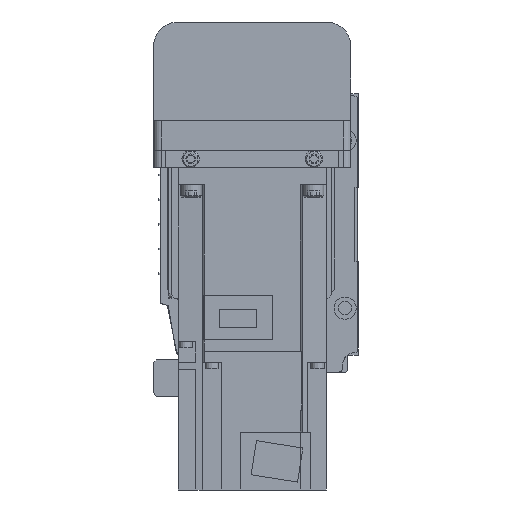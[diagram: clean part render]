
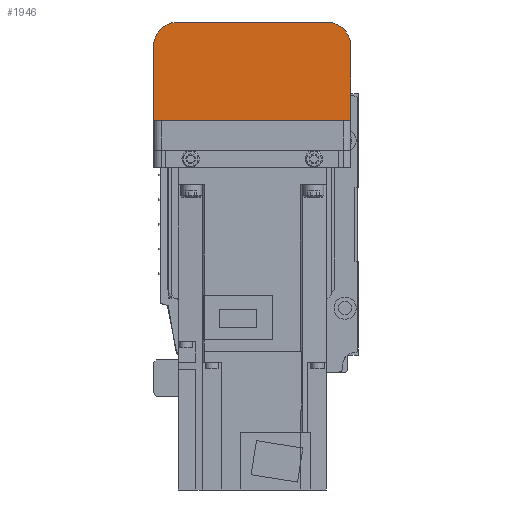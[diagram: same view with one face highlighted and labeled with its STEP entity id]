
A CAD part, left-side view. The second image highlights one B-rep face of the part: STEP entity #1946.
In plain terms, the highlighted planar face has unit normal (-1, 0, 0).
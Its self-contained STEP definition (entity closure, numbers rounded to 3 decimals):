
#1946 = ADVANCED_FACE( '', ( #4192 ), #4193, .F. );
#4192 = FACE_OUTER_BOUND( '', #6728, .T. );
#4193 = PLANE( '', #6729 );
#6728 = EDGE_LOOP( '', ( #12030, #12031, #12032, #12033, #12034, #12035 ) );
#6729 = AXIS2_PLACEMENT_3D( '', #12036, #12037, #12038 );
#12030 = ORIENTED_EDGE( '', *, *, #14512, .F. );
#12031 = ORIENTED_EDGE( '', *, *, #14495, .F. );
#12032 = ORIENTED_EDGE( '', *, *, #16302, .F. );
#12033 = ORIENTED_EDGE( '', *, *, #15856, .F. );
#12034 = ORIENTED_EDGE( '', *, *, #14692, .F. );
#12035 = ORIENTED_EDGE( '', *, *, #16303, .F. );
#12036 = CARTESIAN_POINT( '', ( -192., 37., 7. ) );
#12037 = DIRECTION( '', ( 1., 0., 0. ) );
#12038 = DIRECTION( '', ( 0., 0., -1. ) );
#14495 = EDGE_CURVE( '', #17283, #17285, #17286, .T. );
#14512 = EDGE_CURVE( '', #17285, #17313, #17314, .T. );
#14692 = EDGE_CURVE( '', #17622, #17624, #17625, .T. );
#15856 = EDGE_CURVE( '', #17624, #19437, #19438, .T. );
#16302 = EDGE_CURVE( '', #19437, #17283, #20026, .T. );
#16303 = EDGE_CURVE( '', #17313, #17622, #20027, .T. );
#17283 = VERTEX_POINT( '', #21220 );
#17285 = VERTEX_POINT( '', #21223 );
#17286 = LINE( '', #21224, #21225 );
#17313 = VERTEX_POINT( '', #21262 );
#17314 = LINE( '', #21263, #21264 );
#17622 = VERTEX_POINT( '', #21671 );
#17624 = VERTEX_POINT( '', #21674 );
#17625 = CIRCLE( '', #21675, 10. );
#19437 = VERTEX_POINT( '', #24106 );
#19438 = LINE( '', #24107, #24108 );
#20026 = CIRCLE( '', #24900, 10. );
#20027 = LINE( '', #24901, #24902 );
#21220 = CARTESIAN_POINT( '', ( -192., 40., -42. ) );
#21223 = CARTESIAN_POINT( '', ( -192., 40., -12.1 ) );
#21224 = CARTESIAN_POINT( '', ( -192., 40., -42. ) );
#21225 = VECTOR( '', #25929, 1000. );
#21262 = CARTESIAN_POINT( '', ( -192., -40., -12.1 ) );
#21263 = CARTESIAN_POINT( '', ( -192., 50., -12.1 ) );
#21264 = VECTOR( '', #25946, 1000. );
#21671 = CARTESIAN_POINT( '', ( -192., -40., -42. ) );
#21674 = CARTESIAN_POINT( '', ( -192., -30., -52. ) );
#21675 = AXIS2_PLACEMENT_3D( '', #26185, #26186, #26187 );
#24106 = CARTESIAN_POINT( '', ( -192., 30., -52. ) );
#24107 = CARTESIAN_POINT( '', ( -192., -30., -52. ) );
#24108 = VECTOR( '', #27626, 1000. );
#24900 = AXIS2_PLACEMENT_3D( '', #28143, #28144, #28145 );
#24901 = CARTESIAN_POINT( '', ( -192., -40., -12.1 ) );
#24902 = VECTOR( '', #28146, 1000. );
#25929 = DIRECTION( '', ( 0., 0., 1. ) );
#25946 = DIRECTION( '', ( 0., -1., 0. ) );
#26185 = CARTESIAN_POINT( '', ( -192., -30., -42. ) );
#26186 = DIRECTION( '', ( 1., 0., 0. ) );
#26187 = DIRECTION( '', ( 0., 0., -1. ) );
#27626 = DIRECTION( '', ( 0., 1., 0. ) );
#28143 = CARTESIAN_POINT( '', ( -192., 30., -42. ) );
#28144 = DIRECTION( '', ( 1., 0., 0. ) );
#28145 = DIRECTION( '', ( 0., 0., -1. ) );
#28146 = DIRECTION( '', ( 0., 0., -1. ) );
